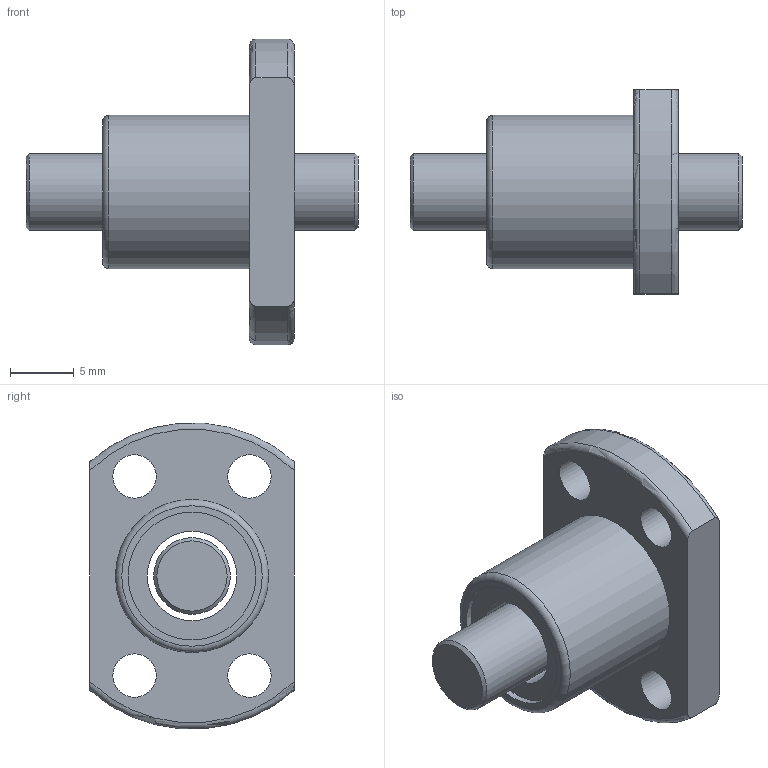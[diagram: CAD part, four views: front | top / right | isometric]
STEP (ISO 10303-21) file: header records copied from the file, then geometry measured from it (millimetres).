
FILE_DESCRIPTION (( 'STEP AP203' ), '1' );
FILE_NAME ('SFK00601.STEP', '2023-08-17T00:19:37', ( '' ), ( '' ), 'SwSTEP 2.0', 'SolidWorks 2022', '' );
FILE_SCHEMA (( 'CONFIG_CONTROL_DESIGN' ));
Length unit declared in the file: millimetre
Products named in the file (1): SFK00601
Bounding box: 26 x 16 x 23.92 mm (x, y, z)
Volume: 2460.8 mm3; surface area: 2258.4 mm2
Topology: 2 solids, 2 shells, 27 faces, 61 edges, 41 vertices
Faces by surface type: cylinder 11, plane 9, torus 5, cone 2
Full cylindrical faces by diameter (mm): 3.4 x4, 6 x1, 7 x1, 10 x2, 12 x1
Entity records: 925 total; most frequent: CARTESIAN_POINT 280, DIRECTION 122, ORIENTED_EDGE 90, AXIS2_PLACEMENT_3D 57, EDGE_LOOP 52, EDGE_CURVE 45, FACE_OUTER_BOUND 37, VERTEX_POINT 37
